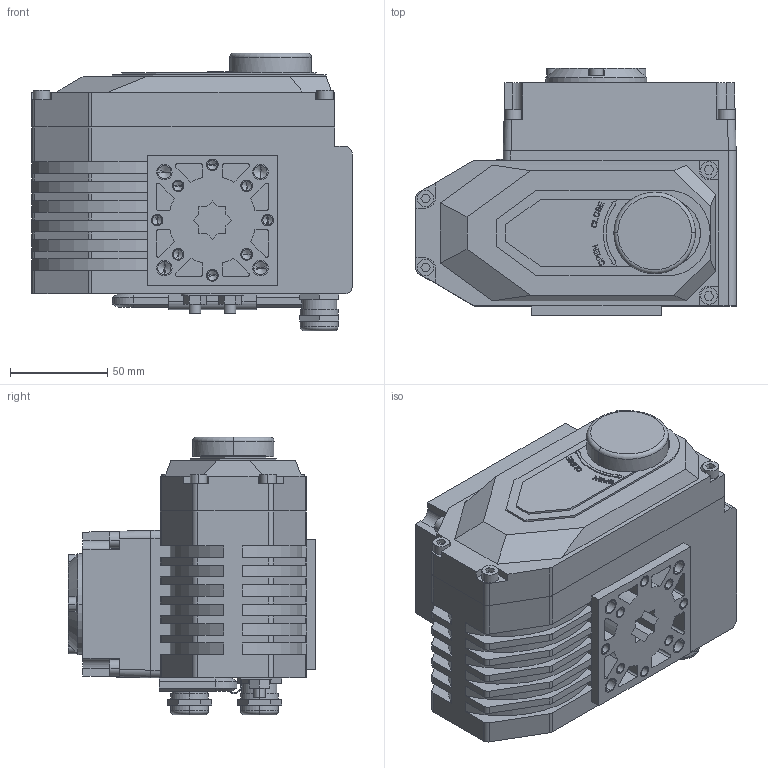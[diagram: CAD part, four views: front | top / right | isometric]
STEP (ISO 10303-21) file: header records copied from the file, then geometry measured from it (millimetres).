
FILE_DESCRIPTION((''),'2;1');
FILE_NAME('ELECTROPRIVOD_ASM','2024-09-01T',('AMD'),(''),'PRO/ENGINEER BY PARAMETRIC TECHNOLOGY CORPORATION, 2008020','PRO/ENGINEER BY PARAMETRIC TECHNOLOGY CORPORATION, 2008020','');
FILE_SCHEMA(('CONFIG_CONTROL_DESIGN'));
Length unit declared in the file: millimetre
Products named in the file (9): DET_1; V-11738-M5; V-11738-M4; DET_2; KREPLENIE; KLUCH; DET_3; G-5915-M6; ELECTROPRIVOD_ASM
Assembly tree (19 placements, depth 2):
  ELECTROPRIVOD_ASM
    DET_1
    V-11738-M5  x8
    V-11738-M4  x4
    DET_2
    KREPLENIE
    KLUCH
    DET_3
    G-5915-M6  x2
Bounding box: 165 x 127.5 x 143 mm (x, y, z)
Volume: 1651741.3 mm3; surface area: 170402.3 mm2
Topology: 19 solids, 45 shells, 1023 faces, 2652 edges, 1746 vertices
Faces by surface type: plane 719, cylinder 252, cone 46, torus 6
Entity records: 26085 total; most frequent: CARTESIAN_POINT 4752, DIRECTION 4351, ORIENTED_EDGE 4340, EDGE_CURVE 2202, VECTOR 1719, LINE 1719, VERTEX_POINT 1457, AXIS2_PLACEMENT_3D 1316
